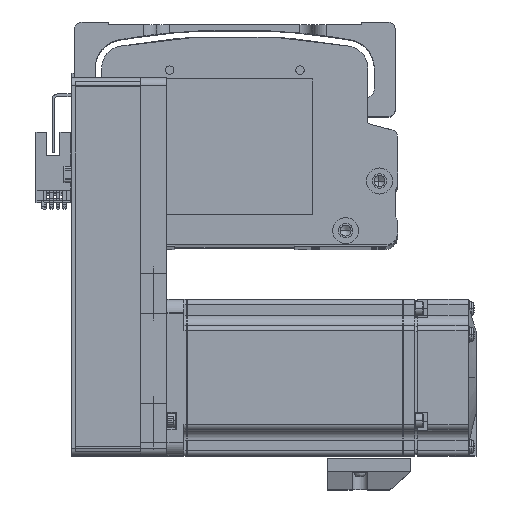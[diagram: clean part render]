
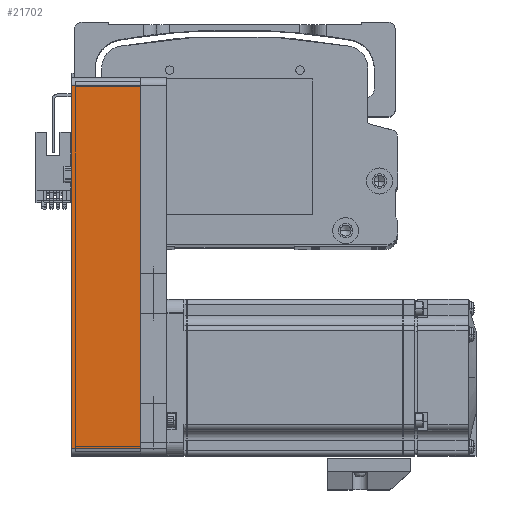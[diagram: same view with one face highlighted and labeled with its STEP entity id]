
A CAD part, top view. The second image highlights one B-rep face of the part: STEP entity #21702.
In plain terms, the highlighted planar face has unit normal (0, 0, 1) as drawn and (0, 1, 0) by its records, which use the part's own axes.
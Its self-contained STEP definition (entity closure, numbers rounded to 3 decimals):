
#281 = ORIENTED_EDGE ( 'NONE', *, *, #32644, .T. ) ;
#8581 = VERTEX_POINT ( 'NONE', #63160 ) ;
#8979 = EDGE_LOOP ( 'NONE', ( #48479, #74282, #77168, #281 ) ) ;
#9620 = EDGE_CURVE ( 'NONE', #41654, #8581, #82502, .T. ) ;
#12180 = CARTESIAN_POINT ( 'NONE',  ( 72.5, 30., 0. ) ) ;
#12231 = VECTOR ( 'NONE', #56749, 1000. ) ;
#13533 = CARTESIAN_POINT ( 'NONE',  ( -69.5, 30., 26.5 ) ) ;
#14239 = CARTESIAN_POINT ( 'NONE',  ( 69.5, 30., 0. ) ) ;
#20128 = AXIS2_PLACEMENT_3D ( 'NONE', #32260, #76891, #38670 ) ;
#21702 = ADVANCED_FACE ( 'NONE', ( #51476 ), #44756, .F. ) ;
#21809 = VECTOR ( 'NONE', #44862, 1000. ) ;
#24913 = VECTOR ( 'NONE', #62069, 1000. ) ;
#26362 = DIRECTION ( 'NONE',  ( 0., 0., 1. ) ) ;
#27149 = EDGE_CURVE ( 'NONE', #56905, #8581, #73797, .T. ) ;
#32260 = CARTESIAN_POINT ( 'NONE',  ( 72.5, 30., 26.5 ) ) ;
#32644 = EDGE_CURVE ( 'NONE', #56905, #39143, #40758, .T. ) ;
#38513 = CARTESIAN_POINT ( 'NONE',  ( 69.5, 30., 26.5 ) ) ;
#38670 = DIRECTION ( 'NONE',  ( 1., 0., 0. ) ) ;
#39143 = VERTEX_POINT ( 'NONE', #14239 ) ;
#40758 = LINE ( 'NONE', #38513, #21809 ) ;
#41036 = EDGE_CURVE ( 'NONE', #39143, #41654, #63103, .T. ) ;
#41654 = VERTEX_POINT ( 'NONE', #71479 ) ;
#44756 = PLANE ( 'NONE',  #20128 ) ;
#44862 = DIRECTION ( 'NONE',  ( 0., 0., -1. ) ) ;
#48479 = ORIENTED_EDGE ( 'NONE', *, *, #41036, .T. ) ;
#48531 = VECTOR ( 'NONE', #26362, 1000. ) ;
#51476 = FACE_OUTER_BOUND ( 'NONE', #8979, .T. ) ;
#56749 = DIRECTION ( 'NONE',  ( -1., 0., 0. ) ) ;
#56905 = VERTEX_POINT ( 'NONE', #69341 ) ;
#62069 = DIRECTION ( 'NONE',  ( -1., 0., 0. ) ) ;
#63103 = LINE ( 'NONE', #12180, #12231 ) ;
#63160 = CARTESIAN_POINT ( 'NONE',  ( -69.5, 30., 26.5 ) ) ;
#69341 = CARTESIAN_POINT ( 'NONE',  ( 69.5, 30., 26.5 ) ) ;
#71479 = CARTESIAN_POINT ( 'NONE',  ( -69.5, 30., 0. ) ) ;
#73797 = LINE ( 'NONE', #81355, #24913 ) ;
#74282 = ORIENTED_EDGE ( 'NONE', *, *, #9620, .T. ) ;
#76891 = DIRECTION ( 'NONE',  ( 0., -1., 0. ) ) ;
#77168 = ORIENTED_EDGE ( 'NONE', *, *, #27149, .F. ) ;
#81355 = CARTESIAN_POINT ( 'NONE',  ( 72.5, 30., 26.5 ) ) ;
#82502 = LINE ( 'NONE', #13533, #48531 ) ;
